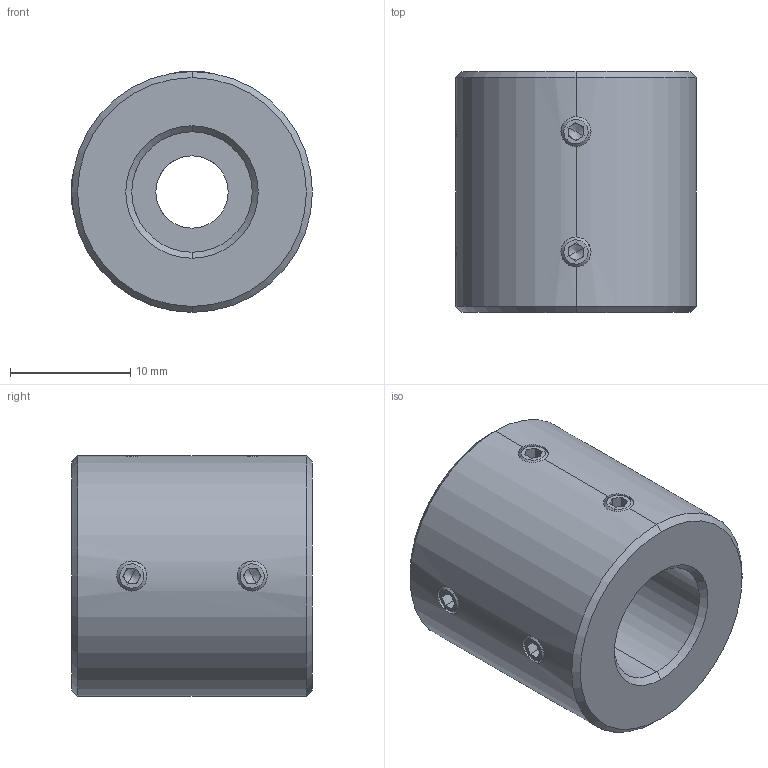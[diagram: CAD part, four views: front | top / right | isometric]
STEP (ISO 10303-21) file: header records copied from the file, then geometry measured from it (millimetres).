
FILE_DESCRIPTION (( 'STEP AP214' ), '1' );
FILE_NAME ('LL-D-D20L20-6-10.STEP', '2022-07-23T06:33:25', ( '' ), ( '' ), 'SwSTEP 2.0', 'SolidWorks 2022', '' );
FILE_SCHEMA (( 'AUTOMOTIVE_DESIGN' ));
Length unit declared in the file: millimetre
Products named in the file (1): LL-D-D20L20-6-10
Bounding box: 20 x 20 x 20 mm (x, y, z)
Volume: 5141.2 mm3; surface area: 2398 mm2
Topology: 1 solids, 1 shells, 113 faces, 286 edges, 176 vertices
Faces by surface type: plane 59, cone 32, cylinder 22
Entity records: 3642 total; most frequent: CARTESIAN_POINT 892, DIRECTION 582, ORIENTED_EDGE 556, EDGE_CURVE 278, AXIS2_PLACEMENT_3D 214, VERTEX_POINT 176, VECTOR 154, LINE 154
